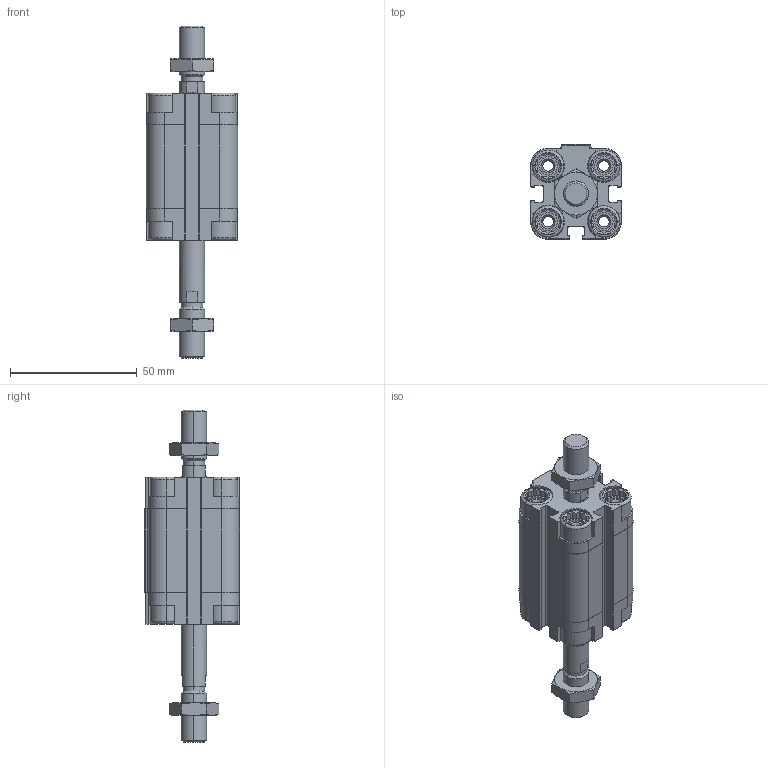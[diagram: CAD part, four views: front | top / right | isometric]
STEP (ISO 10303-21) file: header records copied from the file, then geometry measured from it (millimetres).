
FILE_DESCRIPTION (( 'STEP AP203' ), '1' );
FILE_NAME ('CDVU20-20M-P.STEP', '2020-07-21T15:07:53', ( '' ), ( '' ), 'SwSTEP 2.0', 'SolidWorks 2019', '' );
FILE_SCHEMA (( 'CONFIG_CONTROL_DESIGN' ));
Length unit declared in the file: millimetre
Products named in the file (1): CDVU20-20M-P
Bounding box: 36 x 37.5 x 131 mm (x, y, z)
Volume: 61262.8 mm3; surface area: 29452.3 mm2
Topology: 4 solids, 4 shells, 642 faces, 1674 edges, 1078 vertices
Faces by surface type: plane 374, cylinder 188, cone 64, torus 16
Entity records: 20369 total; most frequent: CARTESIAN_POINT 4535, ORIENTED_EDGE 3340, DIRECTION 3212, EDGE_CURVE 1670, AXIS2_PLACEMENT_3D 1115, VERTEX_POINT 1078, VECTOR 982, LINE 982
